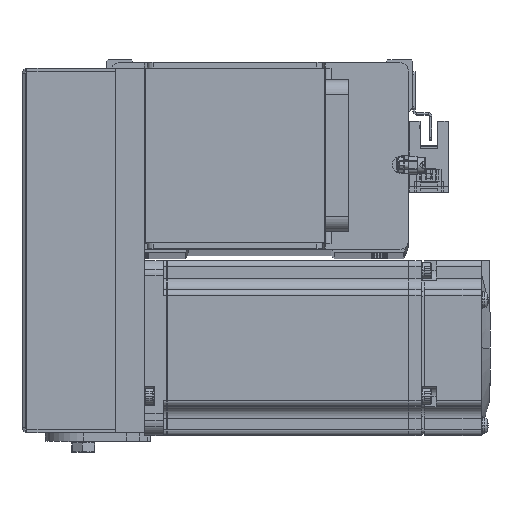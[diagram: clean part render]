
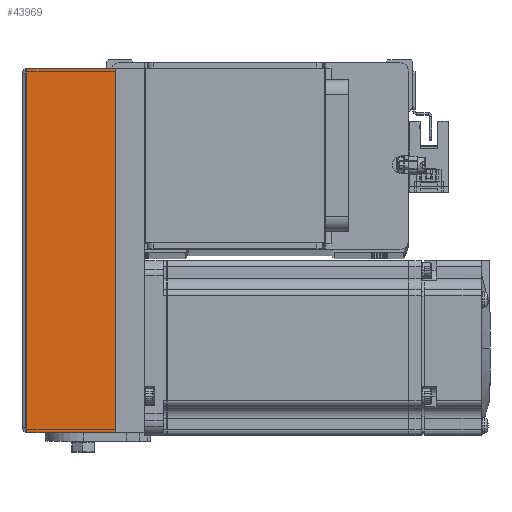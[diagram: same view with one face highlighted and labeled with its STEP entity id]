
A CAD part, top view. The second image highlights one B-rep face of the part: STEP entity #43969.
In plain terms, the highlighted planar face has unit normal (0, 0, 1) as drawn and (0, 0, -1) by its records, which use the part's own axes.
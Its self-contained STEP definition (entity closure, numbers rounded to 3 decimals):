
#2558 = VECTOR ( 'NONE', #33278, 1000. ) ;
#5461 = EDGE_CURVE ( 'NONE', #5566, #32150, #47261, .T. ) ;
#5566 = VERTEX_POINT ( 'NONE', #29030 ) ;
#6060 = LINE ( 'NONE', #35869, #17897 ) ;
#9161 = AXIS2_PLACEMENT_3D ( 'NONE', #34839, #49781, #19166 ) ;
#9649 = CARTESIAN_POINT ( 'NONE',  ( 0., 0., -31. ) ) ;
#11843 = FACE_OUTER_BOUND ( 'NONE', #40979, .T. ) ;
#12525 = CARTESIAN_POINT ( 'NONE',  ( 62.5, -30.3, -31. ) ) ;
#13382 = EDGE_CURVE ( 'NONE', #45733, #42917, #25447, .T. ) ;
#13693 = CARTESIAN_POINT ( 'NONE',  ( -62.5, 0., -31. ) ) ;
#15328 = EDGE_CURVE ( 'NONE', #5566, #45733, #6060, .T. ) ;
#17897 = VECTOR ( 'NONE', #21437, 1000. ) ;
#19166 = DIRECTION ( 'NONE',  ( 0., 1., 0. ) ) ;
#21437 = DIRECTION ( 'NONE',  ( 1., 0., 0. ) ) ;
#21632 = EDGE_CURVE ( 'NONE', #32150, #42917, #32641, .T. ) ;
#24691 = CARTESIAN_POINT ( 'NONE',  ( 62.5, -30.3, -31. ) ) ;
#25447 = LINE ( 'NONE', #24691, #2558 ) ;
#28226 = ORIENTED_EDGE ( 'NONE', *, *, #13382, .F. ) ;
#29030 = CARTESIAN_POINT ( 'NONE',  ( -62.5, -30.3, -31. ) ) ;
#31056 = DIRECTION ( 'NONE',  ( 0., 1., 0. ) ) ;
#32150 = VERTEX_POINT ( 'NONE', #13693 ) ;
#32544 = ORIENTED_EDGE ( 'NONE', *, *, #5461, .T. ) ;
#32641 = LINE ( 'NONE', #9649, #46634 ) ;
#33278 = DIRECTION ( 'NONE',  ( 0., 1., 0. ) ) ;
#34342 = PLANE ( 'NONE',  #9161 ) ;
#34839 = CARTESIAN_POINT ( 'NONE',  ( 0., -30.8, -31. ) ) ;
#34856 = CARTESIAN_POINT ( 'NONE',  ( -62.5, -30.3, -31. ) ) ;
#35795 = ORIENTED_EDGE ( 'NONE', *, *, #15328, .F. ) ;
#35869 = CARTESIAN_POINT ( 'NONE',  ( 62.5, -30.3, -31. ) ) ;
#40493 = ORIENTED_EDGE ( 'NONE', *, *, #21632, .T. ) ;
#40979 = EDGE_LOOP ( 'NONE', ( #35795, #32544, #40493, #28226 ) ) ;
#42917 = VERTEX_POINT ( 'NONE', #43222 ) ;
#43222 = CARTESIAN_POINT ( 'NONE',  ( 62.5, 0., -31. ) ) ;
#43969 = ADVANCED_FACE ( 'NONE', ( #11843 ), #34342, .F. ) ;
#45733 = VERTEX_POINT ( 'NONE', #12525 ) ;
#46610 = VECTOR ( 'NONE', #31056, 1000. ) ;
#46634 = VECTOR ( 'NONE', #48073, 1000. ) ;
#47261 = LINE ( 'NONE', #34856, #46610 ) ;
#48073 = DIRECTION ( 'NONE',  ( 1., 0., 0. ) ) ;
#49781 = DIRECTION ( 'NONE',  ( 0., 0., 1. ) ) ;
